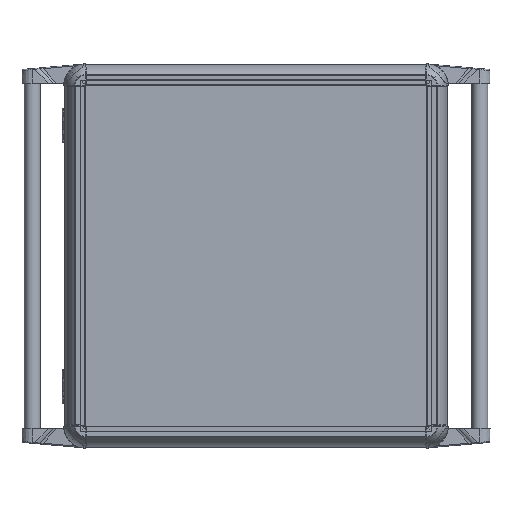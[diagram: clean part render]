
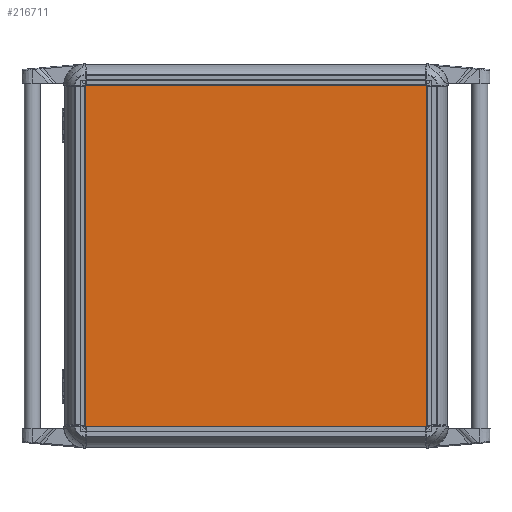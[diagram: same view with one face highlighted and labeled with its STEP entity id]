
A CAD part, top view. The second image highlights one B-rep face of the part: STEP entity #216711.
In plain terms, the highlighted planar face has unit normal (0, 0, 1).
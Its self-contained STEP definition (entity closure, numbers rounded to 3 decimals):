
#789 = CARTESIAN_POINT ( 'NONE',  ( 200., -200., 2. ) ) ;
#6746 = EDGE_CURVE ( 'NONE', #120152, #116665, #18158, .T. ) ;
#7638 = VERTEX_POINT ( 'NONE', #224351 ) ;
#17907 = EDGE_CURVE ( 'NONE', #116665, #7638, #89563, .T. ) ;
#18158 = LINE ( 'NONE', #205168, #93623 ) ;
#21515 = DIRECTION ( 'NONE',  ( 0., 0., 1. ) ) ;
#23846 = LINE ( 'NONE', #93349, #168109 ) ;
#26405 = ORIENTED_EDGE ( 'NONE', *, *, #225647, .T. ) ;
#42753 = ORIENTED_EDGE ( 'NONE', *, *, #140660, .T. ) ;
#49352 = LINE ( 'NONE', #100558, #208868 ) ;
#53210 = DIRECTION ( 'NONE',  ( 0., 1., 0. ) ) ;
#64217 = DIRECTION ( 'NONE',  ( -1., 0., 0. ) ) ;
#87690 = DIRECTION ( 'NONE',  ( 1., 0., 0. ) ) ;
#89563 = LINE ( 'NONE', #159110, #177209 ) ;
#93349 = CARTESIAN_POINT ( 'NONE',  ( -200., 200., 2. ) ) ;
#93623 = VECTOR ( 'NONE', #87690, 1000. ) ;
#95986 = AXIS2_PLACEMENT_3D ( 'NONE', #215248, #21515, #160545 ) ;
#100558 = CARTESIAN_POINT ( 'NONE',  ( -200., 200., 2. ) ) ;
#109360 = ORIENTED_EDGE ( 'NONE', *, *, #17907, .T. ) ;
#116665 = VERTEX_POINT ( 'NONE', #789 ) ;
#120152 = VERTEX_POINT ( 'NONE', #222134 ) ;
#140660 = EDGE_CURVE ( 'NONE', #7638, #223712, #49352, .T. ) ;
#145627 = PLANE ( 'NONE',  #95986 ) ;
#159110 = CARTESIAN_POINT ( 'NONE',  ( 200., 200., 2. ) ) ;
#160545 = DIRECTION ( 'NONE',  ( 1., 0., 0. ) ) ;
#162869 = DIRECTION ( 'NONE',  ( 0., -1., 0. ) ) ;
#168109 = VECTOR ( 'NONE', #162869, 1000. ) ;
#177209 = VECTOR ( 'NONE', #53210, 1000. ) ;
#185958 = EDGE_LOOP ( 'NONE', ( #109360, #42753, #26405, #224246 ) ) ;
#201595 = CARTESIAN_POINT ( 'NONE',  ( -200., 200., 2. ) ) ;
#205168 = CARTESIAN_POINT ( 'NONE',  ( -200., -200., 2. ) ) ;
#208868 = VECTOR ( 'NONE', #64217, 1000. ) ;
#214118 = FACE_OUTER_BOUND ( 'NONE', #185958, .T. ) ;
#215248 = CARTESIAN_POINT ( 'NONE',  ( 0., 0., 2. ) ) ;
#216711 = ADVANCED_FACE ( 'NONE', ( #214118 ), #145627, .T. ) ;
#222134 = CARTESIAN_POINT ( 'NONE',  ( -200., -200., 2. ) ) ;
#223712 = VERTEX_POINT ( 'NONE', #201595 ) ;
#224246 = ORIENTED_EDGE ( 'NONE', *, *, #6746, .T. ) ;
#224351 = CARTESIAN_POINT ( 'NONE',  ( 200., 200., 2. ) ) ;
#225647 = EDGE_CURVE ( 'NONE', #223712, #120152, #23846, .T. ) ;
